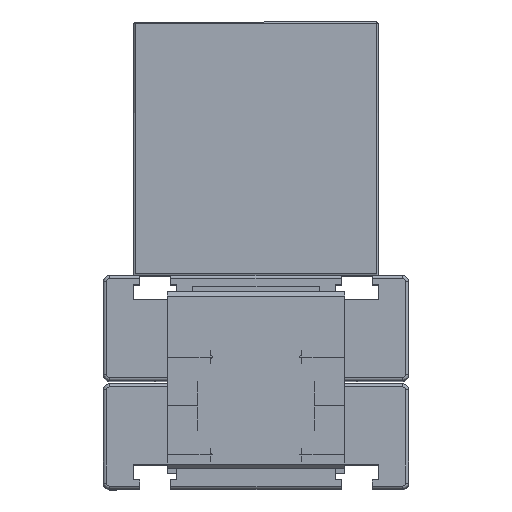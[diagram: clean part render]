
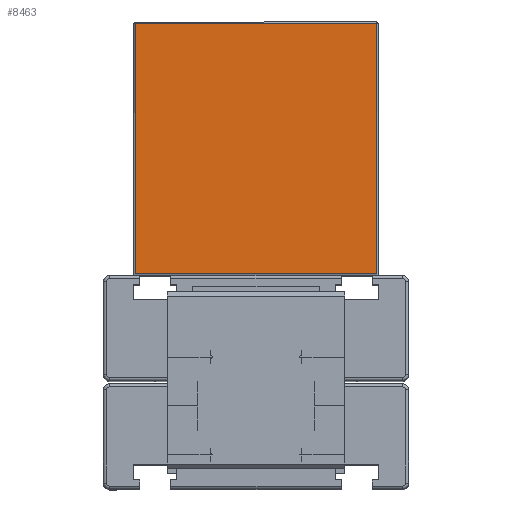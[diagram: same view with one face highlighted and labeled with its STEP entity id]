
A CAD part, top view. The second image highlights one B-rep face of the part: STEP entity #8463.
In plain terms, the highlighted planar face has unit normal (0, 0, 1) as drawn and (0, 0, -1) by its records, which use the part's own axes.
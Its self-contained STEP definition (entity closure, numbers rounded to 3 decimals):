
#77 = VECTOR ( 'NONE', #7881, 1000. ) ;
#123 = CARTESIAN_POINT ( 'NONE',  ( 79.5, 0., -65. ) ) ;
#666 = ORIENTED_EDGE ( 'NONE', *, *, #6741, .T. ) ;
#1360 = CARTESIAN_POINT ( 'NONE',  ( 79.5, 82.5, -65. ) ) ;
#1415 = DIRECTION ( 'NONE',  ( 0., 1., 0. ) ) ;
#1783 = VERTEX_POINT ( 'NONE', #1360 ) ;
#2243 = FACE_OUTER_BOUND ( 'NONE', #5157, .T. ) ;
#2263 = VERTEX_POINT ( 'NONE', #12465 ) ;
#2405 = ORIENTED_EDGE ( 'NONE', *, *, #6817, .T. ) ;
#4208 = DIRECTION ( 'NONE',  ( 0., -1., 0. ) ) ;
#4678 = LINE ( 'NONE', #13617, #77 ) ;
#4748 = LINE ( 'NONE', #9170, #9130 ) ;
#4942 = ORIENTED_EDGE ( 'NONE', *, *, #8588, .T. ) ;
#5157 = EDGE_LOOP ( 'NONE', ( #4942, #2405, #5285, #666 ) ) ;
#5285 = ORIENTED_EDGE ( 'NONE', *, *, #7761, .T. ) ;
#5297 = DIRECTION ( 'NONE',  ( 0., 0., 1. ) ) ;
#5437 = CARTESIAN_POINT ( 'NONE',  ( 80., 0., -65. ) ) ;
#5539 = CARTESIAN_POINT ( 'NONE',  ( 79.5, 0.5, -65. ) ) ;
#5853 = AXIS2_PLACEMENT_3D ( 'NONE', #5437, #5297, #4208 ) ;
#6175 = VERTEX_POINT ( 'NONE', #5539 ) ;
#6457 = VERTEX_POINT ( 'NONE', #13352 ) ;
#6741 = EDGE_CURVE ( 'NONE', #2263, #1783, #4678, .T. ) ;
#6811 = DIRECTION ( 'NONE',  ( 0., -1., 0. ) ) ;
#6817 = EDGE_CURVE ( 'NONE', #6175, #6457, #4748, .T. ) ;
#7290 = VECTOR ( 'NONE', #1415, 1000. ) ;
#7761 = EDGE_CURVE ( 'NONE', #6457, #2263, #7817, .T. ) ;
#7817 = LINE ( 'NONE', #7962, #7290 ) ;
#7881 = DIRECTION ( 'NONE',  ( 1., 0., 0. ) ) ;
#7962 = CARTESIAN_POINT ( 'NONE',  ( 0.5, 0., -65. ) ) ;
#8090 = DIRECTION ( 'NONE',  ( -1., 0., 0. ) ) ;
#8463 = ADVANCED_FACE ( 'NONE', ( #2243 ), #9795, .F. ) ;
#8588 = EDGE_CURVE ( 'NONE', #1783, #6175, #10294, .T. ) ;
#9123 = VECTOR ( 'NONE', #6811, 1000. ) ;
#9130 = VECTOR ( 'NONE', #8090, 1000. ) ;
#9170 = CARTESIAN_POINT ( 'NONE',  ( 0., 0.5, -65. ) ) ;
#9795 = PLANE ( 'NONE',  #5853 ) ;
#10294 = LINE ( 'NONE', #123, #9123 ) ;
#12465 = CARTESIAN_POINT ( 'NONE',  ( 0.5, 82.5, -65. ) ) ;
#13352 = CARTESIAN_POINT ( 'NONE',  ( 0.5, 0.5, -65. ) ) ;
#13617 = CARTESIAN_POINT ( 'NONE',  ( 80., 82.5, -65. ) ) ;
